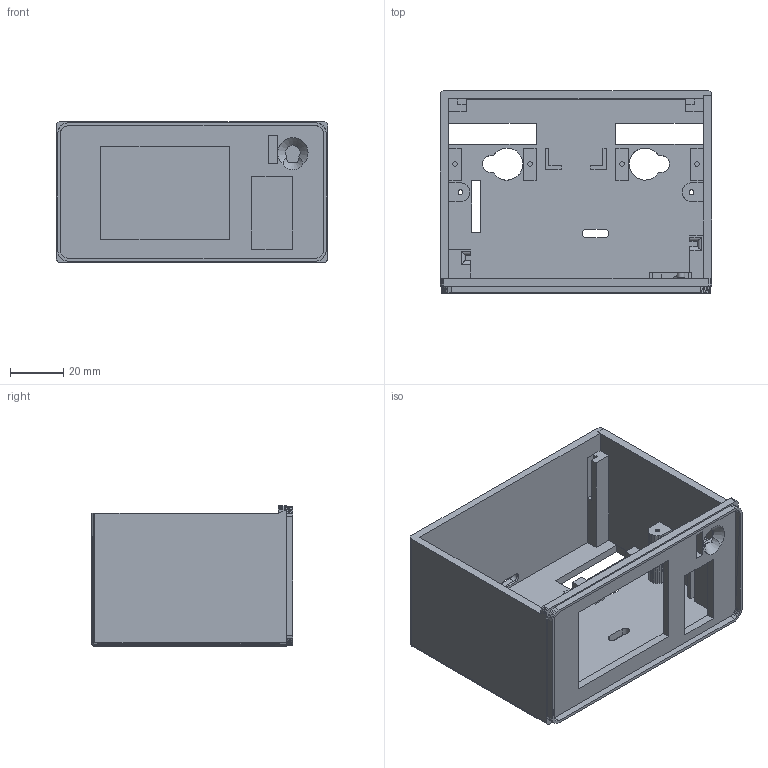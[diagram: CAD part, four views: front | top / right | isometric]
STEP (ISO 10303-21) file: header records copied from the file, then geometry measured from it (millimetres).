
FILE_DESCRIPTION(/* description */ (''),/* implementation_level */ '2;1');
FILE_NAME(/* name */ 'Lumi_TVcase.step',/* time_stamp */ '2025-06-14T15:43:40+05:30',/* author */ (''),/* organization */ (''),/* preprocessor_version */ 'ST-DEVELOPER v20.1',/* originating_system */ 'Autodesk Translation Framework v14.10.0.0',/* authorisation */ '');
FILE_SCHEMA (('AUTOMOTIVE_DESIGN { 1 0 10303 214 3 1 1 }'));
Length unit declared in the file: millimetre
Products named in the file (2): FusionComponent; part_object_id_1
Assembly tree (1 placements, depth 2):
  FusionComponent
    part_object_id_1
Bounding box: 102.03 x 75.94 x 52.97 mm (x, y, z)
Volume: 71759.4 mm3; surface area: 47864.3 mm2
Topology: 1 solids, 1 shells, 828 faces, 1819 edges, 1005 vertices
Faces by surface type: plane 808, cylinder 13, cone 5, bspline 2
Full cylindrical faces by diameter (mm): 1.8 x2, 2.8 x1
Entity records: 21595 total; most frequent: CARTESIAN_POINT 3740, ORIENTED_EDGE 3638, DIRECTION 3498, EDGE_CURVE 1819, LINE 1774, VECTOR 1774, VERTEX_POINT 1005, EDGE_LOOP 866
